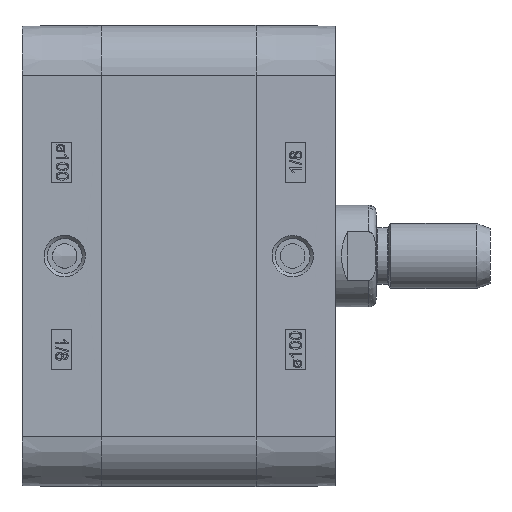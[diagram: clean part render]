
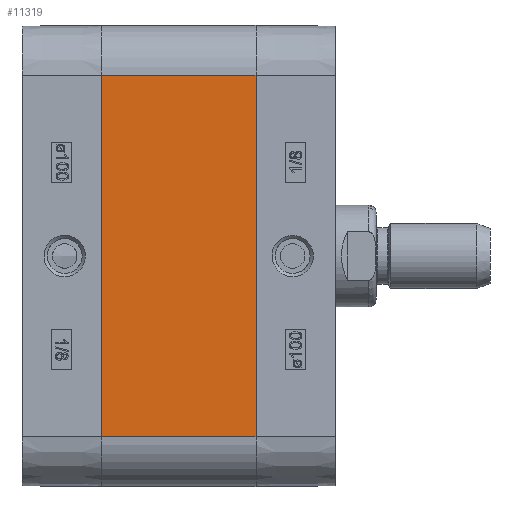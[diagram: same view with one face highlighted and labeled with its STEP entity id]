
A CAD part, left-side view. The second image highlights one B-rep face of the part: STEP entity #11319.
In plain terms, the highlighted planar face has unit normal (-1, 0, 0).
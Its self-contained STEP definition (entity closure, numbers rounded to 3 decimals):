
#5684=CARTESIAN_POINT('',(-56.65,-38.0,44.4));
#5685=VERTEX_POINT('',#5684);
#5692=CARTESIAN_POINT('',(-56.65,-38.0,-44.4));
#5693=VERTEX_POINT('',#5692);
#5694=CARTESIAN_POINT('',(-56.65,-38.0,-44.4));
#5695=DIRECTION('',(0.0,0.0,1.0));
#5696=VECTOR('',#5695,88.8);
#5697=LINE('',#5694,#5696);
#5698=EDGE_CURVE('',#5693,#5685,#5697,.T.);
#11277=CARTESIAN_POINT('',(-56.65,0.0,-44.4));
#11278=VERTEX_POINT('',#11277);
#11279=CARTESIAN_POINT('',(-56.65,0.0,-44.4));
#11280=DIRECTION('',(0.0,-1.0,0.0));
#11281=VECTOR('',#11280,38.0);
#11282=LINE('',#11279,#11281);
#11283=EDGE_CURVE('',#11278,#5693,#11282,.T.);
#11296=CARTESIAN_POINT('',(-56.65,0.0,-44.4));
#11297=DIRECTION('',(-1.0,0.0,0.0));
#11298=DIRECTION('',(0.0,0.0,1.0));
#11299=AXIS2_PLACEMENT_3D('',#11296,#11297,#11298);
#11300=PLANE('',#11299);
#11301=ORIENTED_EDGE('',*,*,#5698,.T.);
#11302=CARTESIAN_POINT('',(-56.65,0.0,44.4));
#11303=VERTEX_POINT('',#11302);
#11304=CARTESIAN_POINT('',(-56.65,0.0,44.4));
#11305=DIRECTION('',(0.0,-1.0,0.0));
#11306=VECTOR('',#11305,38.0);
#11307=LINE('',#11304,#11306);
#11308=EDGE_CURVE('',#11303,#5685,#11307,.T.);
#11309=ORIENTED_EDGE('',*,*,#11308,.F.);
#11310=CARTESIAN_POINT('',(-56.65,0.0,-44.4));
#11311=DIRECTION('',(0.0,0.0,1.0));
#11312=VECTOR('',#11311,88.8);
#11313=LINE('',#11310,#11312);
#11314=EDGE_CURVE('',#11278,#11303,#11313,.T.);
#11315=ORIENTED_EDGE('',*,*,#11314,.F.);
#11316=ORIENTED_EDGE('',*,*,#11283,.T.);
#11317=EDGE_LOOP('',(#11301,#11309,#11315,#11316));
#11318=FACE_OUTER_BOUND('',#11317,.T.);
#11319=ADVANCED_FACE('',(#11318),#11300,.T.);
